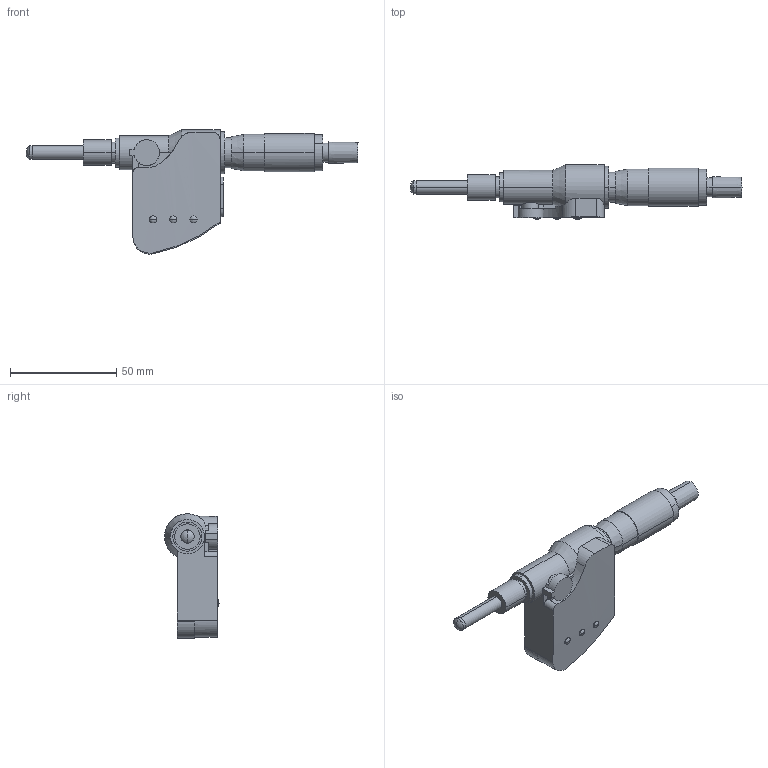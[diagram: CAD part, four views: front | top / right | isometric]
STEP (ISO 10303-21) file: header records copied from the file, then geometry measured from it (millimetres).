
FILE_DESCRIPTION(('Creo Elements/Direct Modeling STEP Export'),'2;1');
FILE_NAME('350_MHN325MB(IP65).stp','2020-07-06T13:49:06',(''),(''),'Creo Elements/Direct Modeling STEP processor for AP214 (Solid Model)','Creo Elements/Direct Modeling 18.1H 24-Oct-2015 (C) Parametric Technology GmbH','');
FILE_SCHEMA(('AUTOMOTIVE_DESIGN { 1 0 10303 214 1 1 1 1 }'));
Length unit declared in the file: millimetre
Products named in the file (2): 350-283-30.1
Assembly tree (1 placements, depth 2):
  350-283-30.1
    350-283-30.1
Bounding box: 156 x 25.78 x 58.44 mm (x, y, z)
Volume: 57764.2 mm3; surface area: 13139.7 mm2
Topology: 1 solids, 1 shells, 100 faces, 246 edges, 157 vertices
Faces by surface type: cylinder 50, plane 33, cone 9, sphere 8
Entity records: 3076 total; most frequent: CARTESIAN_POINT 768, ORIENTED_EDGE 476, DIRECTION 456, EDGE_CURVE 238, AXIS2_PLACEMENT_3D 177, VERTEX_POINT 157, EDGE_LOOP 117, VECTOR 102
